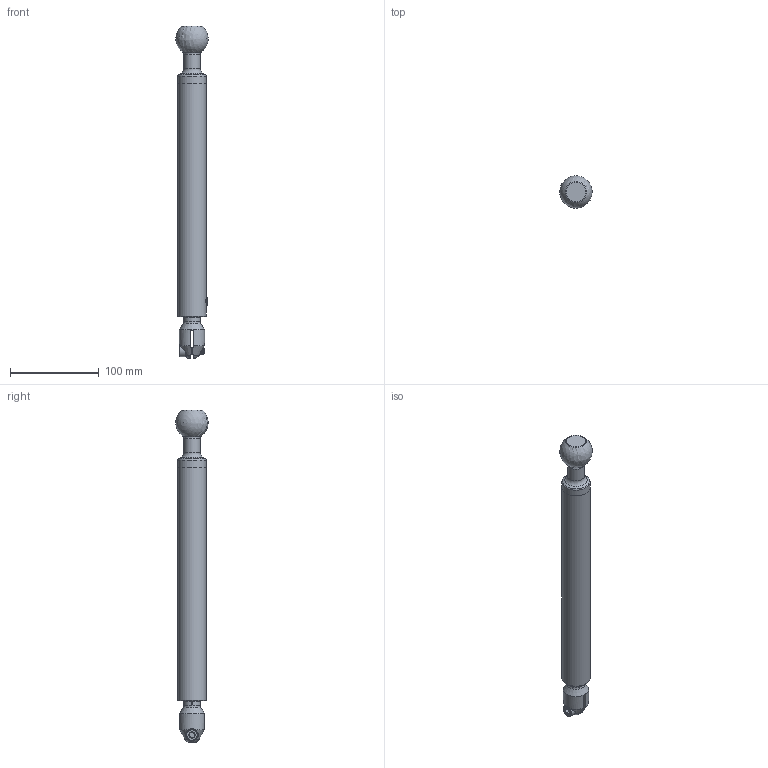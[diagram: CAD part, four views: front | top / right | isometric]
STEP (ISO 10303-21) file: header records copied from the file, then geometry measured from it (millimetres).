
FILE_DESCRIPTION(/* description */ (''),/* implementation_level */ '2;1');
FILE_NAME(/* name */ 'C:\Users\owner\Desktop\HDPL-POSTS_3D_stp\HDPL-TPOST8IN-BK.stp',/* time_stamp */ '2017-10-02T09:48:07-04:00',/* author */ ('owner'),/* organization */ (''),/* preprocessor_version */ 'ST-DEVELOPER v16.5',/* originating_system */ 'Autodesk Inventor 2017',/* authorisation */ '');
FILE_SCHEMA (('CONFIG_CONTROL_DESIGN'));
Length unit declared in the file: inch
Products named in the file (7): PL-HDTPOST8IN-BK; 60072; 60065; 60067; 60074; #92775; 60077
Assembly tree (6 placements, depth 2):
  PL-HDTPOST8IN-BK
    60072
    60065
    60067
    60074
    #92775
    60077
Bounding box: 36.59 x 36.51 x 374.71 mm (x, y, z)
Volume: 260771.3 mm3; surface area: 77441.7 mm2
Topology: 6 solids, 6 shells, 987 faces, 2646 edges, 1744 vertices
Faces by surface type: bspline 417, plane 402, cylinder 115, cone 29, torus 21, sphere 3
Full cylindrical faces by diameter (mm): 6.655 x1, 7 x1, 8.382 x1, 8.731 x1, 9.131 x1, 10.033 x1, 10.693 x1, 10.744 x1, 13 x1, 18.923 x1, 18.947 x1, 19.05 x1, 19.446 x1, 19.482 x1, 22.123 x1, 22.187 x1, 22.225 x2, 28.341 x1, 31.75 x2
Entity records: 44536 total; most frequent: CARTESIAN_POINT 22738, ORIENTED_EDGE 5048, DIRECTION 3303, EDGE_CURVE 2524, VERTEX_POINT 1696, LINE 1189, VECTOR 1189, EDGE_LOOP 1136
